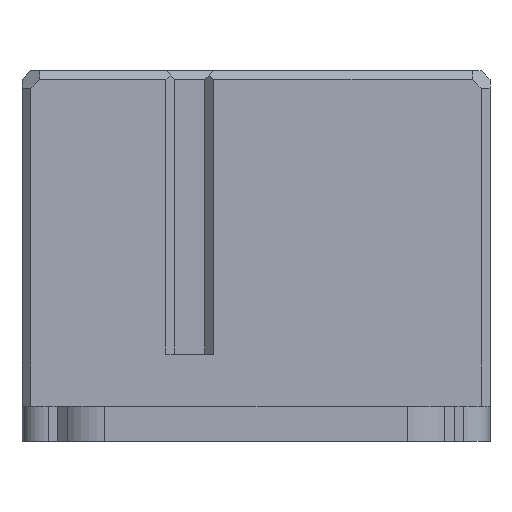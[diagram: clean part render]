
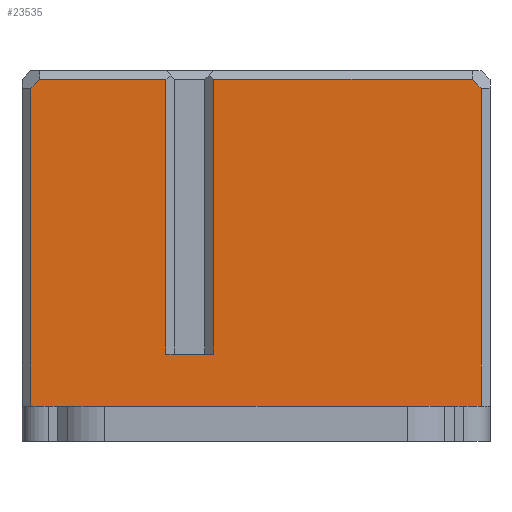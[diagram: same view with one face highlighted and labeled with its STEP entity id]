
A CAD part, front view. The second image highlights one B-rep face of the part: STEP entity #23535.
In plain terms, the highlighted planar face has unit normal (0, -1, 0).
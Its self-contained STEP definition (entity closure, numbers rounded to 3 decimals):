
#5592=DIRECTION('',(0.,0.,-1.));
#5593=VECTOR('',#5592,18.);
#5594=CARTESIAN_POINT('',(-10.8,-7.325,-1.));
#5595=LINE('',#5594,#5593);
#5596=DIRECTION('',(0.707,0.,0.707));
#5597=VECTOR('',#5596,0.707);
#5598=CARTESIAN_POINT('',(-10.8,-7.325,-1.));
#5599=LINE('',#5598,#5597);
#5600=DIRECTION('',(1.,0.,0.));
#5601=VECTOR('',#5600,7.15);
#5602=CARTESIAN_POINT('',(-10.3,-7.325,-0.5));
#5603=LINE('',#5602,#5601);
#5604=DIRECTION('',(0.,0.,1.));
#5605=VECTOR('',#5604,15.55);
#5606=CARTESIAN_POINT('',(-3.15,-7.325,-16.05));
#5607=LINE('',#5606,#5605);
#5608=DIRECTION('',(0.,0.,-1.));
#5609=VECTOR('',#5608,15.55);
#5610=CARTESIAN_POINT('',(-0.45,-7.325,-0.5));
#5611=LINE('',#5610,#5609);
#5612=DIRECTION('',(1.,0.,0.));
#5613=VECTOR('',#5612,14.65);
#5614=CARTESIAN_POINT('',(-0.45,-7.325,-0.5));
#5615=LINE('',#5614,#5613);
#5616=DIRECTION('',(-0.707,0.,0.707));
#5617=VECTOR('',#5616,0.707);
#5618=CARTESIAN_POINT('',(14.7,-7.325,-1.));
#5619=LINE('',#5618,#5617);
#5620=DIRECTION('',(0.,0.,-1.));
#5621=VECTOR('',#5620,18.);
#5622=CARTESIAN_POINT('',(14.7,-7.325,-1.));
#5623=LINE('',#5622,#5621);
#5624=DIRECTION('',(1.,0.,0.));
#5625=VECTOR('',#5624,25.5);
#5626=CARTESIAN_POINT('',(-10.8,-7.325,-19.));
#5627=LINE('',#5626,#5625);
#5930=DIRECTION('',(-1.,0.,0.));
#5931=VECTOR('',#5930,2.7);
#5932=CARTESIAN_POINT('',(-0.45,-7.325,-16.05));
#5933=LINE('',#5932,#5931);
#14636=CARTESIAN_POINT('',(-10.8,-7.325,-1.));
#14637=VERTEX_POINT('',#14636);
#14638=CARTESIAN_POINT('',(-10.8,-7.325,-19.));
#14639=VERTEX_POINT('',#14638);
#14658=CARTESIAN_POINT('',(-10.3,-7.325,-0.5));
#14659=CARTESIAN_POINT('',(-3.15,-7.325,-0.5));
#14660=VERTEX_POINT('',#14658);
#14661=VERTEX_POINT('',#14659);
#14667=CARTESIAN_POINT('',(14.2,-7.325,-0.5));
#14669=VERTEX_POINT('',#14667);
#14670=CARTESIAN_POINT('',(-0.45,-7.325,-0.5));
#14671=VERTEX_POINT('',#14670);
#14674=CARTESIAN_POINT('',(14.7,-7.325,-1.));
#14675=CARTESIAN_POINT('',(14.7,-7.325,-19.));
#14676=VERTEX_POINT('',#14674);
#14677=VERTEX_POINT('',#14675);
#14704=CARTESIAN_POINT('',(-0.45,-7.325,-16.05));
#14706=VERTEX_POINT('',#14704);
#15447=CARTESIAN_POINT('',(-3.15,-7.325,-16.05));
#15449=VERTEX_POINT('',#15447);
#23510=CARTESIAN_POINT('',(-11.3,-7.325,0.));
#23511=DIRECTION('',(0.,-1.,0.));
#23512=DIRECTION('',(1.,0.,0.));
#23513=AXIS2_PLACEMENT_3D('',#23510,#23511,#23512);
#23514=PLANE('',#23513);
#23516=ORIENTED_EDGE('',*,*,#23515,.F.);
#23518=ORIENTED_EDGE('',*,*,#23517,.T.);
#23520=ORIENTED_EDGE('',*,*,#23519,.T.);
#23522=ORIENTED_EDGE('',*,*,#23521,.F.);
#23524=ORIENTED_EDGE('',*,*,#23523,.F.);
#23526=ORIENTED_EDGE('',*,*,#23525,.F.);
#23527=ORIENTED_EDGE('',*,*,#23500,.T.);
#23528=ORIENTED_EDGE('',*,*,#23489,.F.);
#23530=ORIENTED_EDGE('',*,*,#23529,.T.);
#23532=ORIENTED_EDGE('',*,*,#23531,.F.);
#23533=EDGE_LOOP('',(#23516,#23518,#23520,#23522,#23524,#23526,#23527,#23528,
#23530,#23532));
#23534=FACE_OUTER_BOUND('',#23533,.F.);
#23535=ADVANCED_FACE('',(#23534),#23514,.T.);
#23489=EDGE_CURVE('',#14676,#14669,#5619,.T.);
#23500=EDGE_CURVE('',#14671,#14669,#5615,.T.);
#23515=EDGE_CURVE('',#14637,#14639,#5595,.T.);
#23517=EDGE_CURVE('',#14637,#14660,#5599,.T.);
#23519=EDGE_CURVE('',#14660,#14661,#5603,.T.);
#23521=EDGE_CURVE('',#15449,#14661,#5607,.T.);
#23523=EDGE_CURVE('',#14706,#15449,#5933,.T.);
#23525=EDGE_CURVE('',#14671,#14706,#5611,.T.);
#23529=EDGE_CURVE('',#14676,#14677,#5623,.T.);
#23531=EDGE_CURVE('',#14639,#14677,#5627,.T.);
